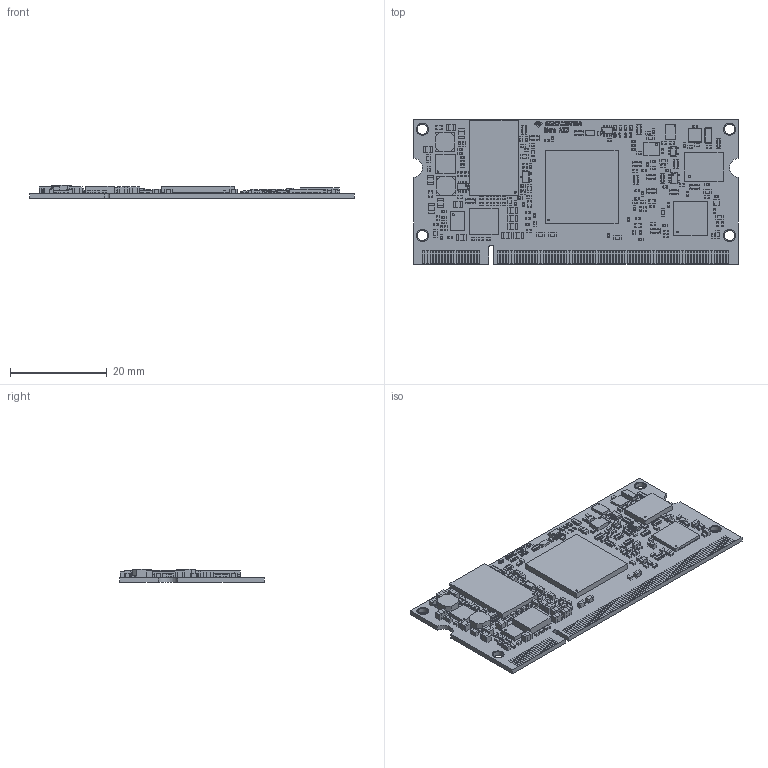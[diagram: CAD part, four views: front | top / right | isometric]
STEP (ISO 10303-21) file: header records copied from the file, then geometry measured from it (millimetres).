
FILE_DESCRIPTION(('Open CASCADE Model'),'2;1');
FILE_NAME('Open CASCADE Shape Model','2019-02-07T09:33:55',('Author'),( 'Open CASCADE'),'Open CASCADE STEP processor 6.8','Open CASCADE 6.8' ,'Unknown');
FILE_SCHEMA(('AUTOMOTIVE_DESIGN { 1 0 10303 214 1 1 1 1 }'));
Length unit declared in the file: millimetre
Products named in the file (309): --
Assembly tree (670 placements, depth 4):
  --
    --
    --
      --
        --
      --  x2
        --
      --  x2
        --
      --
        --
      --
        --
      --
        --
    --
      --  x8
    --
      --
    --
      --
    --
      --
    --
      --
    --
      --
    --
      --
    --
      --
    --
      --
    --
      --
    --
      --
    --
      --
    --
      --
    --
      --
    --
      --
    --
      --
    --
      --
    --
      --
    --
      --
    --
      --
    --
      --
    --
      --
    --
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Bounding box: 67.2 x 30 x 2.76 mm (x, y, z)
Volume: 2825.5 mm3; surface area: 7396.1 mm2
Topology: 724 solids, 724 shells, 8219 faces, 19303 edges, 12440 vertices
Faces by surface type: plane 6910, extrusion 887, cylinder 336, bspline 48, sphere 38
Full cylindrical faces by diameter (mm): 0.2 x2, 0.3 x2, 0.4 x5, 2.1 x4
Entity records: 99128 total; most frequent: CARTESIAN_POINT 20449, ORIENTED_EDGE 13506, DIRECTION 11277, EDGE_CURVE 6753, VECTOR 5573, LINE 4817, VERTEX_POINT 4374, AXIS2_PLACEMENT_3D 2852
